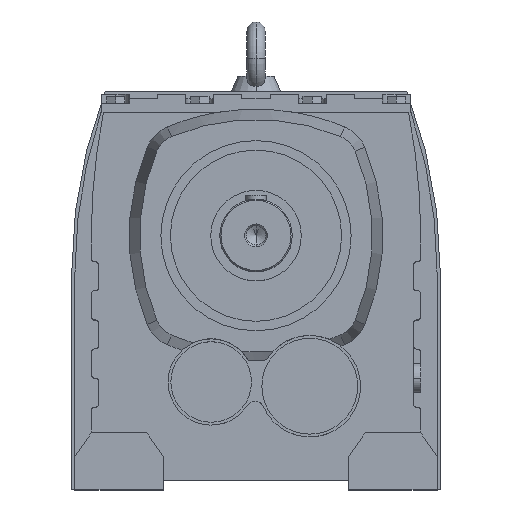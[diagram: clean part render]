
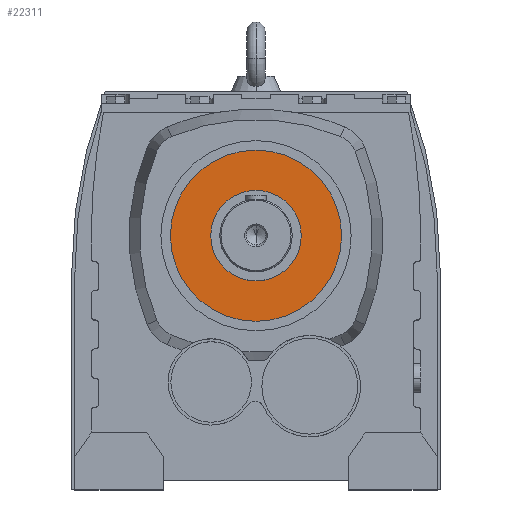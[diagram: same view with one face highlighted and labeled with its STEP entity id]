
A CAD part, top view. The second image highlights one B-rep face of the part: STEP entity #22311.
In plain terms, the highlighted planar face has unit normal (0, 0, 1).
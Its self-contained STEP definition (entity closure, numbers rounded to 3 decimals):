
#21224 = CYLINDRICAL_SURFACE('',#21225,106.313);
#21225 = AXIS2_PLACEMENT_3D('',#21226,#21227,#21228);
#21226 = CARTESIAN_POINT('',(0.,25.1,589.));
#21227 = DIRECTION('',(0.,0.,1.));
#21228 = DIRECTION('',(0.,-1.,0.));
#21254 = CYLINDRICAL_SURFACE('',#21255,106.313);
#21255 = AXIS2_PLACEMENT_3D('',#21256,#21257,#21258);
#21256 = CARTESIAN_POINT('',(0.,25.1,589.));
#21257 = DIRECTION('',(0.,0.,1.));
#21258 = DIRECTION('',(0.,-1.,0.));
#22072 = EDGE_CURVE('',#22073,#22075,#22077,.T.);
#22073 = VERTEX_POINT('',#22074);
#22074 = CARTESIAN_POINT('',(0.,-81.213,402.));
#22075 = VERTEX_POINT('',#22076);
#22076 = CARTESIAN_POINT('',(0.,131.413,402.));
#22077 = SURFACE_CURVE('',#22078,(#22083,#22089),.PCURVE_S1.);
#22078 = CIRCLE('',#22079,106.313);
#22079 = AXIS2_PLACEMENT_3D('',#22080,#22081,#22082);
#22080 = CARTESIAN_POINT('',(0.,25.1,402.));
#22081 = DIRECTION('',(0.,0.,-1.));
#22082 = DIRECTION('',(-1.,0.,0.));
#22083 = PCURVE('',#21254,#22084);
#22084 = DEFINITIONAL_REPRESENTATION('',(#22085),#22088);
#22085 = B_SPLINE_CURVE_WITH_KNOTS('',1,(#22086,#22087),.UNSPECIFIED.,
  .F.,.F.,(2,2),(4.712,7.854),
  .PIECEWISE_BEZIER_KNOTS.);
#22086 = CARTESIAN_POINT('',(6.283,-187.));
#22087 = CARTESIAN_POINT('',(3.142,-187.));
#22088 = ( GEOMETRIC_REPRESENTATION_CONTEXT(2) 
PARAMETRIC_REPRESENTATION_CONTEXT() REPRESENTATION_CONTEXT('2D SPACE',''
  ) );
#22089 = PCURVE('',#22090,#22095);
#22090 = PLANE('',#22091);
#22091 = AXIS2_PLACEMENT_3D('',#22092,#22093,#22094);
#22092 = CARTESIAN_POINT('',(-45.86,7.96,402.));
#22093 = DIRECTION('',(0.,0.,-1.));
#22094 = DIRECTION('',(-1.,0.,0.));
#22095 = DEFINITIONAL_REPRESENTATION('',(#22096),#22100);
#22096 = CIRCLE('',#22097,106.313);
#22097 = AXIS2_PLACEMENT_2D('',#22098,#22099);
#22098 = CARTESIAN_POINT('',(-45.86,17.14));
#22099 = DIRECTION('',(1.,0.));
#22100 = ( GEOMETRIC_REPRESENTATION_CONTEXT(2) 
PARAMETRIC_REPRESENTATION_CONTEXT() REPRESENTATION_CONTEXT('2D SPACE',''
  ) );
#22147 = EDGE_CURVE('',#22075,#22073,#22148,.T.);
#22148 = SURFACE_CURVE('',#22149,(#22154,#22160),.PCURVE_S1.);
#22149 = CIRCLE('',#22150,106.313);
#22150 = AXIS2_PLACEMENT_3D('',#22151,#22152,#22153);
#22151 = CARTESIAN_POINT('',(0.,25.1,402.));
#22152 = DIRECTION('',(0.,0.,-1.));
#22153 = DIRECTION('',(-1.,0.,0.));
#22154 = PCURVE('',#21224,#22155);
#22155 = DEFINITIONAL_REPRESENTATION('',(#22156),#22159);
#22156 = B_SPLINE_CURVE_WITH_KNOTS('',1,(#22157,#22158),.UNSPECIFIED.,
  .F.,.F.,(2,2),(1.571,4.712),
  .PIECEWISE_BEZIER_KNOTS.);
#22157 = CARTESIAN_POINT('',(3.142,-187.));
#22158 = CARTESIAN_POINT('',(0.,-187.));
#22159 = ( GEOMETRIC_REPRESENTATION_CONTEXT(2) 
PARAMETRIC_REPRESENTATION_CONTEXT() REPRESENTATION_CONTEXT('2D SPACE',''
  ) );
#22160 = PCURVE('',#22090,#22161);
#22161 = DEFINITIONAL_REPRESENTATION('',(#22162),#22166);
#22162 = CIRCLE('',#22163,106.313);
#22163 = AXIS2_PLACEMENT_2D('',#22164,#22165);
#22164 = CARTESIAN_POINT('',(-45.86,17.14));
#22165 = DIRECTION('',(1.,0.));
#22166 = ( GEOMETRIC_REPRESENTATION_CONTEXT(2) 
PARAMETRIC_REPRESENTATION_CONTEXT() REPRESENTATION_CONTEXT('2D SPACE',''
  ) );
#22311 = ADVANCED_FACE('',(#22312,#22316),#22090,.F.);
#22312 = FACE_BOUND('',#22313,.T.);
#22313 = EDGE_LOOP('',(#22314,#22315));
#22314 = ORIENTED_EDGE('',*,*,#22072,.F.);
#22315 = ORIENTED_EDGE('',*,*,#22147,.F.);
#22316 = FACE_BOUND('',#22317,.T.);
#22317 = EDGE_LOOP('',(#22318,#22352));
#22318 = ORIENTED_EDGE('',*,*,#22319,.F.);
#22319 = EDGE_CURVE('',#22320,#22322,#22324,.T.);
#22320 = VERTEX_POINT('',#22321);
#22321 = CARTESIAN_POINT('',(0.,-31.15,402.));
#22322 = VERTEX_POINT('',#22323);
#22323 = CARTESIAN_POINT('',(0.,81.35,402.));
#22324 = SURFACE_CURVE('',#22325,(#22330,#22341),.PCURVE_S1.);
#22325 = CIRCLE('',#22326,56.25);
#22326 = AXIS2_PLACEMENT_3D('',#22327,#22328,#22329);
#22327 = CARTESIAN_POINT('',(0.,25.1,402.));
#22328 = DIRECTION('',(0.,0.,1.));
#22329 = DIRECTION('',(-1.,0.,0.));
#22330 = PCURVE('',#22090,#22331);
#22331 = DEFINITIONAL_REPRESENTATION('',(#22332),#22340);
#22332 = ( BOUNDED_CURVE() B_SPLINE_CURVE(2,(#22333,#22334,#22335,#22336
    ,#22337,#22338,#22339),.UNSPECIFIED.,.F.,.F.) 
B_SPLINE_CURVE_WITH_KNOTS((1,2,2,2,2,1),(-2.094,0.,
    2.094,4.189,6.283,8.378),
.UNSPECIFIED.) CURVE() GEOMETRIC_REPRESENTATION_ITEM() 
RATIONAL_B_SPLINE_CURVE((1.,0.5,1.,0.5,1.,0.5,1.)) REPRESENTATION_ITEM(
  '') );
#22333 = CARTESIAN_POINT('',(10.39,17.14));
#22334 = CARTESIAN_POINT('',(10.39,-80.287));
#22335 = CARTESIAN_POINT('',(-73.985,-31.574));
#22336 = CARTESIAN_POINT('',(-158.36,17.14));
#22337 = CARTESIAN_POINT('',(-73.985,65.854));
#22338 = CARTESIAN_POINT('',(10.39,114.568));
#22339 = CARTESIAN_POINT('',(10.39,17.14));
#22340 = ( GEOMETRIC_REPRESENTATION_CONTEXT(2) 
PARAMETRIC_REPRESENTATION_CONTEXT() REPRESENTATION_CONTEXT('2D SPACE',''
  ) );
#22341 = PCURVE('',#22342,#22347);
#22342 = CYLINDRICAL_SURFACE('',#22343,56.25);
#22343 = AXIS2_PLACEMENT_3D('',#22344,#22345,#22346);
#22344 = CARTESIAN_POINT('',(0.,25.1,589.));
#22345 = DIRECTION('',(0.,0.,1.));
#22346 = DIRECTION('',(0.,-1.,0.));
#22347 = DEFINITIONAL_REPRESENTATION('',(#22348),#22351);
#22348 = B_SPLINE_CURVE_WITH_KNOTS('',1,(#22349,#22350),.UNSPECIFIED.,
  .F.,.F.,(2,2),(1.571,4.712),
  .PIECEWISE_BEZIER_KNOTS.);
#22349 = CARTESIAN_POINT('',(0.,-187.));
#22350 = CARTESIAN_POINT('',(3.142,-187.));
#22351 = ( GEOMETRIC_REPRESENTATION_CONTEXT(2) 
PARAMETRIC_REPRESENTATION_CONTEXT() REPRESENTATION_CONTEXT('2D SPACE',''
  ) );
#22352 = ORIENTED_EDGE('',*,*,#22353,.F.);
#22353 = EDGE_CURVE('',#22322,#22320,#22354,.T.);
#22354 = SURFACE_CURVE('',#22355,(#22360,#22371),.PCURVE_S1.);
#22355 = CIRCLE('',#22356,56.25);
#22356 = AXIS2_PLACEMENT_3D('',#22357,#22358,#22359);
#22357 = CARTESIAN_POINT('',(0.,25.1,402.));
#22358 = DIRECTION('',(0.,0.,1.));
#22359 = DIRECTION('',(-1.,0.,0.));
#22360 = PCURVE('',#22090,#22361);
#22361 = DEFINITIONAL_REPRESENTATION('',(#22362),#22370);
#22362 = ( BOUNDED_CURVE() B_SPLINE_CURVE(2,(#22363,#22364,#22365,#22366
    ,#22367,#22368,#22369),.UNSPECIFIED.,.F.,.F.) 
B_SPLINE_CURVE_WITH_KNOTS((1,2,2,2,2,1),(-2.094,0.,
    2.094,4.189,6.283,8.378),
.UNSPECIFIED.) CURVE() GEOMETRIC_REPRESENTATION_ITEM() 
RATIONAL_B_SPLINE_CURVE((1.,0.5,1.,0.5,1.,0.5,1.)) REPRESENTATION_ITEM(
  '') );
#22363 = CARTESIAN_POINT('',(10.39,17.14));
#22364 = CARTESIAN_POINT('',(10.39,-80.287));
#22365 = CARTESIAN_POINT('',(-73.985,-31.574));
#22366 = CARTESIAN_POINT('',(-158.36,17.14));
#22367 = CARTESIAN_POINT('',(-73.985,65.854));
#22368 = CARTESIAN_POINT('',(10.39,114.568));
#22369 = CARTESIAN_POINT('',(10.39,17.14));
#22370 = ( GEOMETRIC_REPRESENTATION_CONTEXT(2) 
PARAMETRIC_REPRESENTATION_CONTEXT() REPRESENTATION_CONTEXT('2D SPACE',''
  ) );
#22371 = PCURVE('',#22372,#22377);
#22372 = CYLINDRICAL_SURFACE('',#22373,56.25);
#22373 = AXIS2_PLACEMENT_3D('',#22374,#22375,#22376);
#22374 = CARTESIAN_POINT('',(0.,25.1,589.));
#22375 = DIRECTION('',(0.,0.,1.));
#22376 = DIRECTION('',(0.,-1.,0.));
#22377 = DEFINITIONAL_REPRESENTATION('',(#22378),#22381);
#22378 = B_SPLINE_CURVE_WITH_KNOTS('',1,(#22379,#22380),.UNSPECIFIED.,
  .F.,.F.,(2,2),(4.712,7.854),
  .PIECEWISE_BEZIER_KNOTS.);
#22379 = CARTESIAN_POINT('',(3.142,-187.));
#22380 = CARTESIAN_POINT('',(6.283,-187.));
#22381 = ( GEOMETRIC_REPRESENTATION_CONTEXT(2) 
PARAMETRIC_REPRESENTATION_CONTEXT() REPRESENTATION_CONTEXT('2D SPACE',''
  ) );
